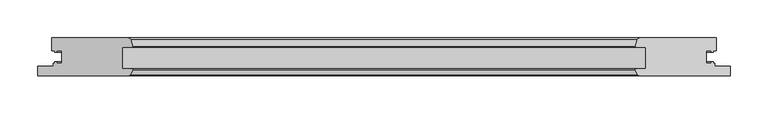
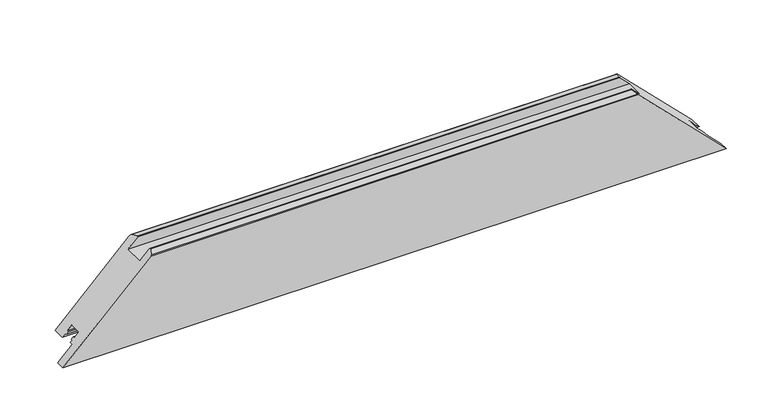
"""IFC4 building model written with IfcOpenShell, lengths in millimetres: proxy geometry, Weiku - Montante - Folha 02.2.01.019-039 : Weiku - Montante - Folha 02.2.01.019-039."""

from ifc_helpers import new_model, si_unit, frame, origin, place, context, project, spatial, ellipse_curve, source, transform, mapped, element, save
from ifc_brep_helpers import plane_surface, cylinder_surface, advanced_brep


def generic_models_2fd9fb42(model_context):
    return source(origin(), model_context, "Body", "AdvancedBrep", [
        advanced_brep(
        [(438.0000338, 50.0, 17.9999662), (336.4977922, 50.0, 119.5022078), (333.6000147, 47.7764571, 122.3999853), (331.0150961, 38.1294095, 124.9849039), (331.498059, 37.5, 124.501941), (344.998059, 37.5, 111.001941), (344.998059, 9.5, 111.001941), (332.2114874, 9.5, 123.7885126), (331.0493385, 7.617411, 124.9506615), (334.5913247, 0.5518546, 121.4086753), (335.4852854, 0.0, 120.5147146), (456.0, 0.0, 0.0), (456.0, 12.5, 0.0), (436.0, 12.5, 20.0), (436.0, 16.9, 20.0), (433.8, 16.9, 22.2), (433.8, 18.9, 22.2), (431.0, 18.9, 25.0), (431.0, 16.9, 25.0), (424.5, 16.9, 31.5), (424.5, 33.1, 31.5), (431.0, 33.1, 25.0), (431.0, 31.1, 25.0), (433.8, 31.1, 22.2), (433.8, 33.1, 22.2), (438.0000338, 33.1, 17.9999662), (-336.4977922, 50.0, 119.5022078), (-438.0000338, 50.0, 17.9999662), (-438.0000338, 33.1, 17.9999662), (-433.8, 33.1, 22.2), (-433.8, 31.1, 22.2), (-431.0, 31.1, 25.0), (-431.0, 33.1, 25.0), (-424.5, 33.1, 31.5), (-424.5, 16.9, 31.5), (-431.0, 16.9, 25.0), (-431.0, 18.9, 25.0), (-433.8, 18.9, 22.2), (-433.8, 16.9, 22.2), (-436.0, 16.9, 20.0), (-436.0, 12.5, 20.0), (-456.0, 12.5, 0.0), (-456.0, 0.0, 0.0), (-335.4852854, 0.0, 120.5147146), (-334.5913247, 0.5518546, 121.4086753), (-331.0493385, 7.617411, 124.9506615), (-332.2114874, 9.5, 123.7885126), (-344.998059, 9.5, 111.001941), (-344.998059, 37.5, 111.001941), (-331.498059, 37.5, 124.501941), (-331.0150961, 38.1294095, 124.9849039), (-333.6000147, 47.7764571, 122.3999853)],
        [
            (0, 1),
            (1, 2, ellipse_curve(frame((336.4977922, 47.0, 119.5022078), z_axis=(0.7071067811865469, 0.0, 0.7071067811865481), x_axis=(-0.7071067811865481, 0.0, 0.7071067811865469)), 4.2426407, 3.0)),
            (2, 3),
            (3, 4, ellipse_curve(frame((331.498059, 38.0, 124.501941), z_axis=(0.7071067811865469, 0.0, 0.7071067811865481), x_axis=(-0.7071067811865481, 0.0, 0.7071067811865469)), 0.7071068, 0.5)),
            (4, 5),
            (5, 6),
            (6, 7),
            (7, 8, ellipse_curve(frame((332.2114874, 8.2, 123.7885126), z_axis=(0.7071067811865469, 0.0, 0.7071067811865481), x_axis=(-0.7071067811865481, 0.0, 0.7071067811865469)), 1.8384776, 1.3)),
            (8, 9),
            (9, 10, ellipse_curve(frame((335.4852854, 1.0, 120.5147146), z_axis=(0.7071067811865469, 0.0, 0.7071067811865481), x_axis=(-0.7071067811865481, 0.0, 0.7071067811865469)), 1.4142136, 1.0)),
            (10, 11),
            (11, 12),
            (12, 13),
            (13, 14),
            (14, 15),
            (15, 16),
            (16, 17),
            (17, 18),
            (18, 19),
            (19, 20),
            (20, 21),
            (21, 22),
            (22, 23),
            (23, 24),
            (24, 25),
            (25, 0),
            (26, 27),
            (27, 28),
            (28, 29),
            (29, 30),
            (30, 31),
            (31, 32),
            (32, 33),
            (33, 34),
            (34, 35),
            (35, 36),
            (36, 37),
            (37, 38),
            (38, 39),
            (39, 40),
            (40, 41),
            (41, 42),
            (42, 43),
            (43, 44, ellipse_curve(frame((-335.4852854, 1.0, 120.5147146), z_axis=(-0.7071067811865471, 0.0, 0.707106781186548), x_axis=(-0.7071067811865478, 0.0, -0.7071067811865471)), 1.4142136, 1.0)),
            (44, 45),
            (45, 46, ellipse_curve(frame((-332.2114874, 8.2, 123.7885126), z_axis=(-0.7071067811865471, 0.0, 0.707106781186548), x_axis=(-0.7071067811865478, 0.0, -0.7071067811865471)), 1.8384776, 1.3)),
            (46, 47),
            (47, 48),
            (48, 49),
            (49, 50, ellipse_curve(frame((-331.498059, 38.0, 124.501941), z_axis=(-0.7071067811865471, 0.0, 0.707106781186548), x_axis=(-0.7071067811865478, 0.0, -0.7071067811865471)), 0.7071068, 0.5)),
            (50, 51),
            (51, 26, ellipse_curve(frame((-336.4977922, 47.0, 119.5022078), z_axis=(-0.7071067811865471, 0.0, 0.707106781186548), x_axis=(-0.7071067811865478, 0.0, -0.7071067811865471)), 4.2426407, 3.0)),
            (0, 27),
            (26, 1),
            (25, 28),
            (24, 29),
            (23, 30),
            (22, 31),
            (21, 32),
            (20, 33),
            (19, 34),
            (18, 35),
            (17, 36),
            (16, 37),
            (15, 38),
            (14, 39),
            (13, 40),
            (12, 41),
            (11, 42),
            (10, 43),
            (9, 44),
            (8, 45),
            (7, 46),
            (6, 47),
            (5, 48),
            (4, 49),
            (3, 50),
            (2, 51),
        ],
        [
            plane_surface(frame((326.0, -13.0, 130.0), z_axis=(0.7071067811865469, 0.0, 0.7071067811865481), x_axis=(0.0, 1.0, 0.0))),
            plane_surface(frame((-484.2842712, -13.0, -28.2842712), z_axis=(-0.7071067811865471, 0.0, 0.707106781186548), x_axis=(0.0, 1.0, 0.0))),
            plane_surface(frame((-456.0, 50.0, 119.5022078), z_axis=(0.0, 1.0, 0.0), x_axis=(1.0, 0.0, 0.0))),
            plane_surface(frame((-456.0, 50.0, 17.9999662), z_axis=(0.0, 0.0, -1.0), x_axis=(1.0, 0.0, 0.0))),
            plane_surface(frame((-456.0, 33.1, 17.9999662), z_axis=(0.0, -1.0, 0.0), x_axis=(1.0, 0.0, 0.0))),
            plane_surface(frame((-456.0, 33.1, 22.2), z_axis=(0.0, 0.0, -1.0), x_axis=(1.0, 0.0, 0.0))),
            plane_surface(frame((-456.0, 31.1, 22.2), z_axis=(0.0, -1.0, 0.0), x_axis=(1.0, 0.0, 0.0))),
            plane_surface(frame((-456.0, 31.1, 25.0), z_axis=(0.0, 0.0, 1.0), x_axis=(1.0, 0.0, 0.0))),
            plane_surface(frame((-456.0, 33.1, 25.0), z_axis=(0.0, -1.0, 0.0), x_axis=(1.0, 0.0, 0.0))),
            plane_surface(frame((-456.0, 33.1, 31.5), z_axis=(0.0, 0.0, -1.0), x_axis=(1.0, 0.0, 0.0))),
            plane_surface(frame((-456.0, 16.9, 31.5), z_axis=(0.0, 1.0, 0.0), x_axis=(1.0, 0.0, 0.0))),
            plane_surface(frame((-456.0, 16.9, 25.0), z_axis=(0.0, 0.0, 1.0), x_axis=(1.0, 0.0, 0.0))),
            plane_surface(frame((-456.0, 18.9, 25.0), z_axis=(0.0, 1.0, 0.0), x_axis=(1.0, 0.0, 0.0))),
            plane_surface(frame((-456.0, 18.9, 22.2), z_axis=(0.0, 0.0, -1.0), x_axis=(1.0, 0.0, 0.0))),
            plane_surface(frame((-456.0, 16.9, 22.2), z_axis=(0.0, 1.0, 0.0), x_axis=(1.0, 0.0, 0.0))),
            plane_surface(frame((-456.0, 16.9, 20.0), z_axis=(0.0, 0.0, -1.0), x_axis=(1.0, 0.0, 0.0))),
            plane_surface(frame((-456.0, 12.5, 20.0), z_axis=(0.0, 1.0, 0.0), x_axis=(1.0, 0.0, 0.0))),
            plane_surface(frame((-456.0, 12.5, 0.0), z_axis=(0.0, 0.0, -1.0), x_axis=(1.0, 0.0, 0.0))),
            plane_surface(frame((-456.0, 0.0, 0.0), z_axis=(0.0, -1.0, 0.0), x_axis=(1.0, 0.0, 0.0))),
            cylinder_surface(frame((-456.0, 1.0, 120.5147146), z_axis=(-1.0, 0.0, 0.0), x_axis=(0.0, 1.0, 0.0)), 1.0),
            plane_surface(frame((-456.0, 0.5518546, 121.4086753), z_axis=(0.0, -0.4481453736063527, 0.8939606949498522), x_axis=(1.0, 0.0, 0.0))),
            cylinder_surface(frame((-456.0, 8.2, 123.7885126), z_axis=(-1.0, 0.0, 0.0), x_axis=(0.0, 1.0, 0.0)), 1.3),
            plane_surface(frame((-456.0, 9.5, 123.7885126), z_axis=(0.0, 1.0, 0.0), x_axis=(1.0, 0.0, 0.0))),
            plane_surface(frame((-456.0, 9.5, 111.001941), z_axis=(0.0, 0.0, 1.0), x_axis=(1.0, 0.0, 0.0))),
            plane_surface(frame((-456.0, 37.5, 111.001941), z_axis=(0.0, -1.0, 0.0), x_axis=(1.0, 0.0, 0.0))),
            cylinder_surface(frame((-456.0, 38.0, 124.501941), z_axis=(-1.0, 0.0, 0.0), x_axis=(0.0, 1.0, 0.0)), 0.5),
            plane_surface(frame((-456.0, 38.1294095, 124.9849039), z_axis=(0.0, 0.2588190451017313, 0.9659258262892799), x_axis=(1.0, 0.0, 0.0))),
            cylinder_surface(frame((-456.0, 47.0, 119.5022078), z_axis=(-1.0, 0.0, 0.0), x_axis=(0.0, 1.0, 0.0)), 3.0),
        ],
        [
            (0, [[1, 2, 3, 4, 5, 6, 7, 8, 9, 10, 11, 12, 13, 14, 15, 16, 17, 18, 19, 20, 21, 22, 23, 24, 25, 26]]),
            (1, [[27, 28, 29, 30, 31, 32, 33, 34, 35, 36, 37, 38, 39, 40, 41, 42, 43, 44, 45, 46, 47, 48, 49, 50, 51, 52]]),
            (2, [[-1, 53, -27, 54]]),
            (3, [[-26, 55, -28, -53]]),
            (4, [[-25, 56, -29, -55]]),
            (5, [[-24, 57, -30, -56]]),
            (6, [[-23, 58, -31, -57]]),
            (7, [[-22, 59, -32, -58]]),
            (8, [[-21, 60, -33, -59]]),
            (9, [[-20, 61, -34, -60]]),
            (10, [[-19, 62, -35, -61]]),
            (11, [[-18, 63, -36, -62]]),
            (12, [[-17, 64, -37, -63]]),
            (13, [[-16, 65, -38, -64]]),
            (14, [[-15, 66, -39, -65]]),
            (15, [[-14, 67, -40, -66]]),
            (16, [[68, -41, -67, -13]]),
            (17, [[-68, -12, 69, -42]]),
            (18, [[-69, -11, 70, -43]]),
            (19, [[-10, 71, -44, -70]]),
            (20, [[-9, 72, -45, -71]]),
            (21, [[-8, 73, -46, -72]]),
            (22, [[-7, 74, -47, -73]]),
            (23, [[-6, 75, -48, -74]]),
            (24, [[-5, 76, -49, -75]]),
            (25, [[-4, 77, -50, -76]]),
            (26, [[-3, 78, -51, -77]]),
            (27, [[-2, -54, -52, -78]]),
        ],
    ),
    ])


if __name__ == "__main__":
    model = new_model("IFC4")
    model_context = context("Model", 3, world=origin())
    ifc_project = project(units=[si_unit("LENGTHUNIT", "METRE", prefix="MILLI")], contexts=[model_context])
    site = spatial("IfcSite", under=ifc_project)
    building = spatial("IfcBuilding", under=site)
    placement = place(None, origin())
    generic_models_shape = generic_models_2fd9fb42(model_context)
    element("IfcBuildingElementProxy", 1, Name="Weiku - Montante - Folha 02.2.01.019-039 : Weiku - Montante - Folha 02.2.01.019-039", ObjectType="Weiku - Montante - Folha 02.2.01.019-039 : Weiku - Montante - Folha 02.2.01.019-039", at=placement, inside=building, context=model_context, shape_type="MappedRepresentation", body=[
        mapped(generic_models_shape, transform((0.0, 0.0, 0.0), x_axis=(1.0, 0.0, 0.0), y_axis=(0.0, 1.0, 0.0), z_axis=(0.0, 0.0, 1.0))),
    ])
    save(model, "model.ifc")
